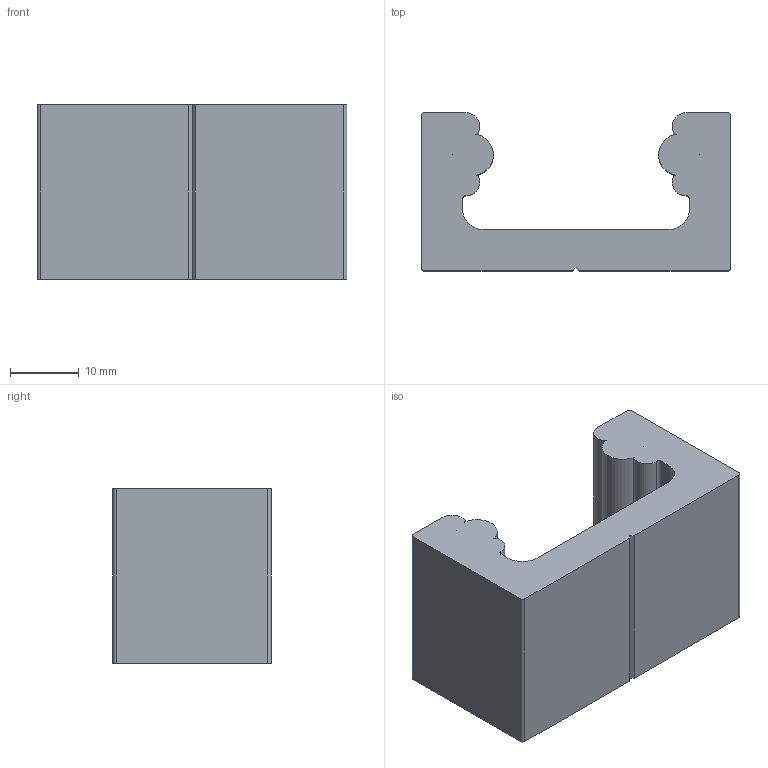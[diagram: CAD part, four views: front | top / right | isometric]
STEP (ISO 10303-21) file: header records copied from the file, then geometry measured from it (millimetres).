
FILE_DESCRIPTION((''),'2;1');
FILE_NAME('C:\Documents and Settings\Administrator\My Documents\Andys Backup Data\WEBSITE\DREAMWEAVER\MiniTec\Products\Linear System LR\CAD\Step\28.0119 RAIL LR 6 COMPACT.stp','2012-04-12T08:44:07',('Administrator'),(''),'Autodesk Inventor 2009','Autodesk Inventor 2009','');
FILE_SCHEMA(('AUTOMOTIVE_DESIGN { 1 0 10303 214 1 1 1 1 }'));
Length unit declared in the file: inch
Products named in the file (1): 28.0119 RAIL LR 6 COMPACT
Bounding box: 45 x 23 x 25.4 mm (x, y, z)
Volume: 13978 mm3; surface area: 5653.5 mm2
Topology: 1 solids, 1 shells, 39 faces, 103 edges, 66 vertices
Faces by surface type: cylinder 20, plane 15, bspline 4
Entity records: 1286 total; most frequent: CARTESIAN_POINT 249, DIRECTION 219, ORIENTED_EDGE 206, EDGE_CURVE 103, AXIS2_PLACEMENT_3D 80, VERTEX_POINT 66, VECTOR 59, LINE 59
